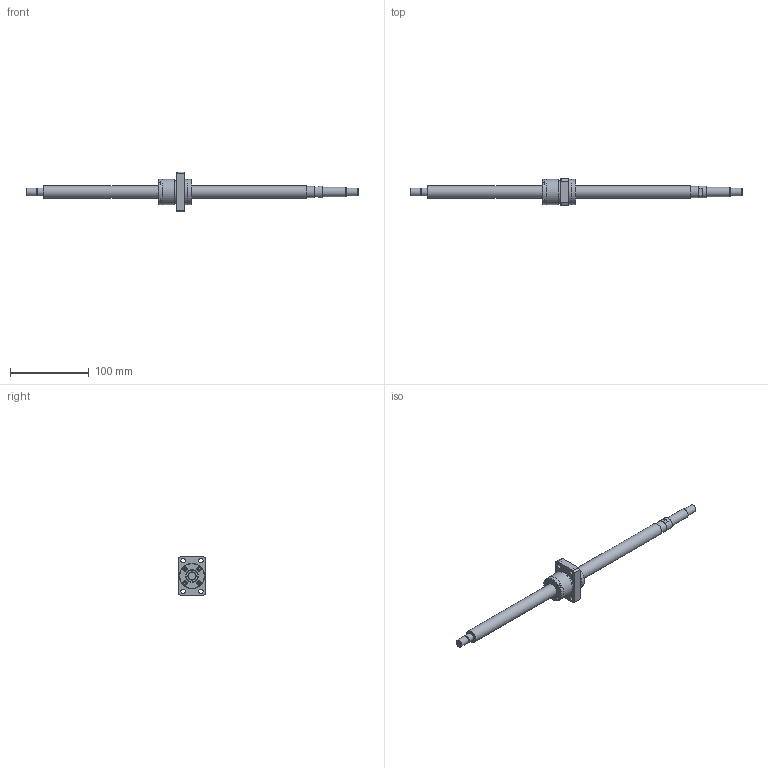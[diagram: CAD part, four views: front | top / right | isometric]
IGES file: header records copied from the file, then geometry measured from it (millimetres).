
Start section: Data from Parasolid IGES Translator 26.0.171, Copyright(c) 2006 Siemens PLM Software. All Rights Reserved.
Global section: file name: BNK1616-3.6G0+421LC5Y(1880).igs; native system: By Siemens PLM Incorporated; preprocessor: XPlus GENERIC/IGES 26.0.171; author: Noname; organization: Noname; date: 20240709.092919; units: millimetre
Bounding box: 421 x 34 x 50 mm (x, y, z)
Surface area: 31777.4 mm2 (no closed solid volume)
Topology: 0 solids, 0 shells, 139 faces, 653 edges, 598 vertices
Faces by surface type: extrusion 75, revolution 64
